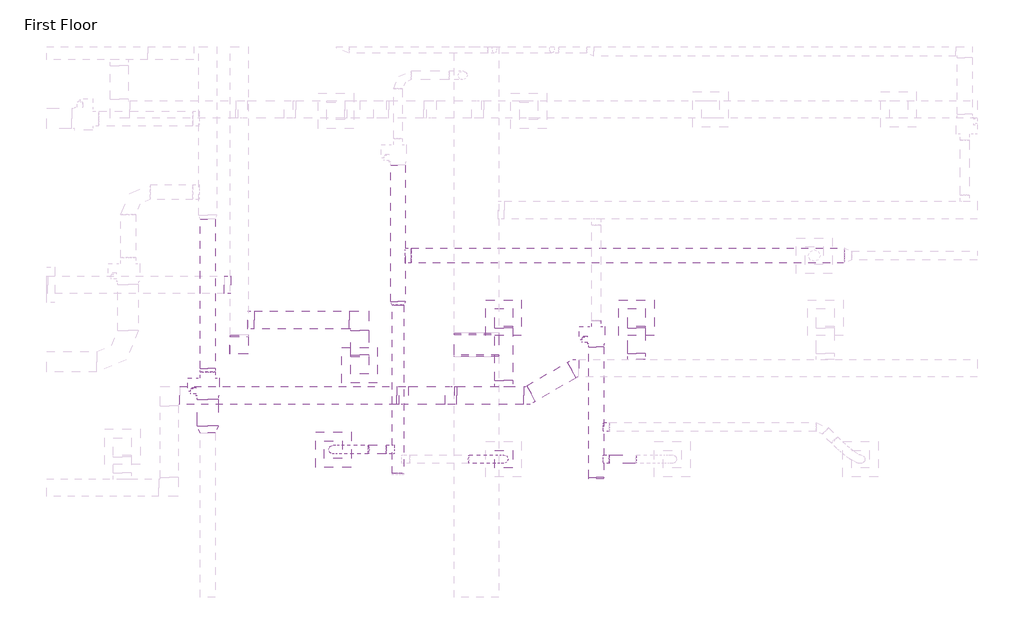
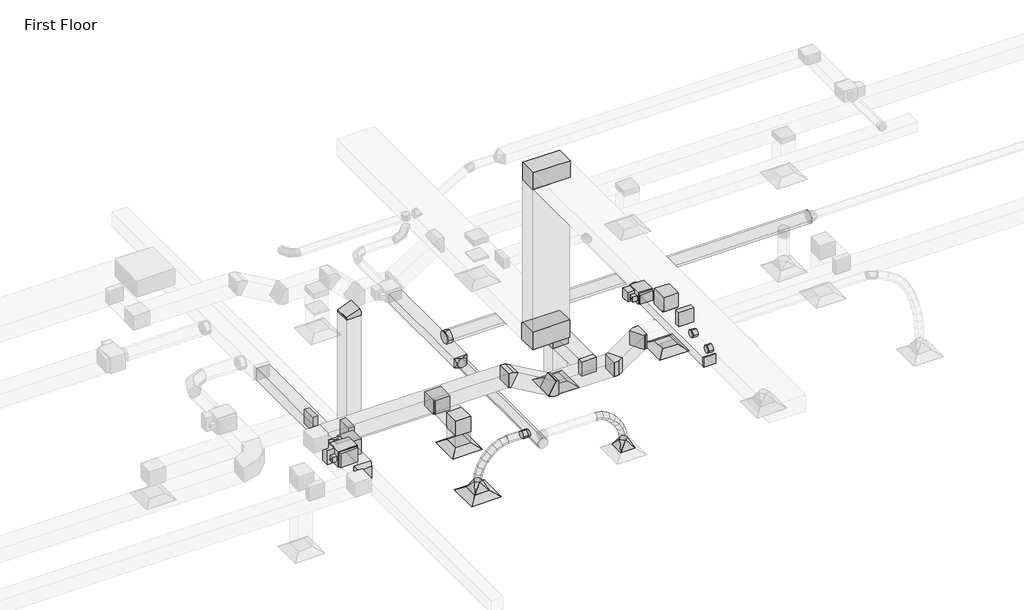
# One storey, part 37 of 61: 26 duct fittings, 23 duct segments, 4 air terminals, 2 proxies.
"""IFC4 building model written with IfcOpenShell, lengths in millimetres."""

from ifc_helpers import new_model, si_unit, point, frame, frame_2d, origin, place, context, project, spatial, polyline, circle_curve, ellipse_curve, trimmed, segment, composite_curve, outline, extrude, transform, mapped, element, save
from ifc_brep_helpers import plane_surface, cylinder_surface, advanced_brep
from components import m_exhaust_grill_er_600_x_600_face_300_x_300_connection_ff221211, m_vav_unit_single_duct_150_mm_ffdab17b, m_vav_unit_single_duct_250_mm_b14a1009, m_rectangular_elbow_mitered_standard_8eee5933, m_rectangular_elbow_mitered_standard_fe2310d5, m_rectangular_elbow_mitered_standard_8b3b5101, m_rectangular_elbow_mitered_standard_01168410, m_rectangular_endcap_standard_ecd4e432, m_rectangular_takeoff_standard_c00386d1, m_rectangular_takeoff_standard_b44bfa45, m_rectangular_transition_angle_45_degree_a06503df, m_rectangular_to_round_transition_angle_45_degree_8f201c83, m_rectangular_to_round_transition_angle_45_degree_9bcfcd89, m_rectangular_to_round_transition_angle_45_degree_26f3b062, m_round_takeoff_standard_2721f8a4, m_round_takeoff_standard_ce92a222, m_round_takeoff_standard_8779dfef

model = new_model("IFC4")

# Units and contexts
model_context = context("Model", 3, world=origin())
ifc_project = project(units=[si_unit("LENGTHUNIT", "METRE", prefix="MILLI")], contexts=[model_context])

# Site, building, storey
site = spatial("IfcSite", under=ifc_project)
building = spatial("IfcBuilding", under=site)
storey = spatial("IfcBuildingStorey", under=building, Name="First Floor", Elevation=0.0)

# Air terminals
placement = place(None, origin())
m_exhaust_grill_er_600_x_600_face_300_x_300_connection_shape = m_exhaust_grill_er_600_x_600_face_300_x_300_connection_ff221211(model_context)
element("IfcAirTerminal", 1, ObjectType="M_Exhaust Grill : ER-600 x 600 Face 300 x 300 Connection", at=placement, inside=storey, context=model_context, shape_type="MappedRepresentation", body=[
    mapped(m_exhaust_grill_er_600_x_600_face_300_x_300_connection_shape, transform((-36957.5376992, 37554.9720359, 2680.0), x_axis=(1.0, 0.0, 0.0), y_axis=(0.0, 1.0, 0.0), z_axis=(0.0, 0.0, 1.0))),
])
element("IfcAirTerminal", 2, ObjectType="M_Return Register : RR-600 x 600 Face 300 x 300 Connection", at=placement, inside=storey, context=model_context, shape_type="MappedRepresentation", body=[
    mapped(m_exhaust_grill_er_600_x_600_face_300_x_300_connection_shape, transform((-34530.7549535, 38358.5208691, 2680.0), x_axis=(1.0, 0.0, 0.0), y_axis=(0.0, 1.0, 0.0), z_axis=(0.0, 0.0, 1.0))),
])
element("IfcAirTerminal", 3, ObjectType="M_Return Register : RR-600 x 600 Face 300 x 300 Connection", at=placement, inside=storey, context=model_context, shape_type="MappedRepresentation", body=[
    mapped(m_exhaust_grill_er_600_x_600_face_300_x_300_connection_shape, transform((-32292.2488656, 38358.5208691, 2680.0), x_axis=(1.0, 0.0, 0.0), y_axis=(0.0, 1.0, 0.0), z_axis=(0.0, 0.0, 1.0))),
])
element("IfcAirTerminal", 4, ObjectType="M_Supply Diffuser : SD-600 x 600 Face 300 x 300 Connection", at=placement, inside=storey, context=model_context, shape_type="MappedRepresentation", body=[
    mapped(m_exhaust_grill_er_600_x_600_face_300_x_300_connection_shape, transform((-37399.8655235, 36131.8095026, 2680.0), x_axis=(1.0, 0.0, 0.0), y_axis=(0.0, 1.0, 0.0), z_axis=(0.0, 0.0, 1.0))),
])

# Proxies
m_vav_unit_single_duct_150_mm_shape = m_vav_unit_single_duct_150_mm_ffdab17b(model_context)
element("IfcBuildingElementProxy", 5, Name="M_VAV Unit - Single Duct : 150 mm", ObjectType="M_VAV Unit - Single Duct : 150 mm", at=placement, inside=storey, context=model_context, shape_type="MappedRepresentation", body=[
    mapped(m_vav_unit_single_duct_150_mm_shape, transform((-32971.6317748, 38206.5503026, 4160.05), x_axis=(0.0, -1.0000000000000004, 0.0), y_axis=(1.0000000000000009, 0.0, 0.0), z_axis=(0.0, 0.0, 1.0000000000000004))),
])
m_vav_unit_single_duct_250_mm_shape = m_vav_unit_single_duct_250_mm_b14a1009(model_context)
element("IfcBuildingElementProxy", 6, Name="M_VAV Unit - Single Duct : 250 mm", ObjectType="M_VAV Unit - Single Duct : 250 mm", at=placement, inside=storey, context=model_context, shape_type="MappedRepresentation", body=[
    mapped(m_vav_unit_single_duct_250_mm_shape, transform((-39518.4687402, 37337.2097424, 3500.0), x_axis=(0.0, -1.0, 0.0), y_axis=(0.9999999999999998, 0.0, 0.0), z_axis=(0.0, 0.0, 0.9999999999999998))),
])

# Duct fittings
m_rectangular_elbow_mitered_standard_shape = m_rectangular_elbow_mitered_standard_8eee5933(model_context)
element("IfcDuctFitting", 7, ObjectType="M_Rectangular Elbow - Mitered : Standard", at=placement, inside=storey, context=model_context, shape_type="MappedRepresentation", body=[
    mapped(m_rectangular_elbow_mitered_standard_shape, transform((-32292.2488656, 38358.5208691, 3750.0), x_axis=(0.0, 0.0, 1.0), y_axis=(0.0, -1.0, 0.0), z_axis=(1.0, 0.0, 0.0))),
])
element("IfcDuctFitting", 8, ObjectType="M_Rectangular Elbow - Mitered : Standard", at=placement, inside=storey, context=model_context, shape_type="MappedRepresentation", body=[
    mapped(m_rectangular_elbow_mitered_standard_shape, transform((-34530.7549535, 38358.5208691, 3750.0), x_axis=(0.0, 0.0, 1.0), y_axis=(0.0, -1.0, 0.0), z_axis=(1.0, 0.0, 0.0))),
])
element("IfcDuctFitting", 9, ObjectType="M_Rectangular Elbow - Mitered : Standard", at=placement, inside=storey, context=model_context, shape_type="MappedRepresentation", body=[
    mapped(m_rectangular_elbow_mitered_standard_shape, transform((-36957.5376992, 37554.9720359, 3200.0), x_axis=(0.0, 0.0, 1.0), y_axis=(0.0, 1.0, 0.0), z_axis=(-1.0, 0.0, 0.0))),
])
element("IfcDuctFitting", 10, ObjectType="M_Rectangular Elbow - Mitered : Standard", at=placement, inside=storey, context=model_context, shape_type="MappedRepresentation", body=[
    mapped(m_rectangular_elbow_mitered_standard_shape, transform((-36957.5376992, 38314.9720359, 3200.0), x_axis=(0.0, 1.0, 0.0), y_axis=(-1.0, 0.0, 0.0), z_axis=(0.0, 0.0, 1.0))),
])
element("IfcDuctFitting", 11, ObjectType="M_Rectangular Elbow - Mitered : Standard", at=placement, inside=storey, context=model_context, shape_type="MappedRepresentation", body=[
    mapped(m_rectangular_elbow_mitered_standard_shape, transform((-38985.9613903, 37891.6210678, 3200.0), x_axis=(0.0, -1.0, 0.0), y_axis=(0.0, 0.0, 1.0), z_axis=(-1.0, 0.0, 0.0))),
])
m_rectangular_elbow_mitered_standard_2_shape = m_rectangular_elbow_mitered_standard_fe2310d5(model_context)
element("IfcDuctFitting", 12, ObjectType="M_Rectangular Elbow - Mitered : Standard", at=placement, inside=storey, context=model_context, shape_type="MappedRepresentation", body=[
    mapped(m_rectangular_elbow_mitered_standard_2_shape, transform((-34991.1904063, 37899.674982, 4259.5), x_axis=(0.0, -1.0, 0.0), y_axis=(0.0, 0.0, 1.0), z_axis=(-1.0, 0.0, 0.0))),
])
element("IfcDuctFitting", 13, ObjectType="M_Rectangular Elbow - Mitered : Standard", at=placement, inside=storey, context=model_context, shape_type="MappedRepresentation", body=[
    mapped(m_rectangular_elbow_mitered_standard_2_shape, transform((-34991.1904063, 37899.674982, 7719.5), x_axis=(0.0, 0.0, 1.0), y_axis=(0.0, -1.0, 0.0), z_axis=(1.0, 0.0, 0.0))),
])
m_rectangular_elbow_mitered_standard_3_shape = m_rectangular_elbow_mitered_standard_8b3b5101(model_context)
element("IfcDuctFitting", 14, ObjectType="M_Rectangular Elbow - Mitered : Standard", at=placement, inside=storey, context=model_context, shape_type="MappedRepresentation", body=[
    mapped(m_rectangular_elbow_mitered_standard_3_shape, transform((-33328.0356534, 37503.8775197, 3750.0), x_axis=(-1.0, 0.0, 0.0), y_axis=(0.0, -1.0, 0.0), z_axis=(0.0, 0.0, 1.0))),
])
element("IfcDuctFitting", 15, ObjectType="M_Rectangular Elbow - Mitered : Standard", at=placement, inside=storey, context=model_context, shape_type="MappedRepresentation", body=[
    mapped(m_rectangular_elbow_mitered_standard_3_shape, transform((-34124.7790249, 37043.8775197, 3750.0), x_axis=(1.0, 0.0, 0.0), y_axis=(0.0, 1.0, 0.0), z_axis=(0.0, 0.0, 1.0))),
])
element("IfcDuctFitting", 16, ObjectType="M_Rectangular Elbow - Mitered : Standard", at=placement, inside=storey, context=model_context, shape_type="MappedRepresentation", body=[
    mapped(m_rectangular_elbow_mitered_standard_3_shape, transform((-35384.7790249, 37043.8775197, 3750.0), x_axis=(-1.0, 0.0, 0.0), y_axis=(0.0, 0.0, 1.0), z_axis=(0.0, 1.0, 0.0))),
])
element("IfcDuctFitting", 17, ObjectType="M_Rectangular Elbow - Mitered : Standard", at=placement, inside=storey, context=model_context, shape_type="MappedRepresentation", body=[
    mapped(m_rectangular_elbow_mitered_standard_3_shape, transform((-36267.2589113, 37043.8775197, 4259.5), x_axis=(-0.8660254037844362, 0.0, 0.5000000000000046), y_axis=(-0.5000000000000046, 0.0, -0.8660254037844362), z_axis=(0.0, -1.0, 0.0))),
])
m_rectangular_elbow_mitered_standard_4_shape = m_rectangular_elbow_mitered_standard_01168410(model_context)
element("IfcDuctFitting", 18, ObjectType="M_Rectangular Elbow - Mitered : Standard", at=placement, inside=storey, context=model_context, shape_type="MappedRepresentation", body=[
    mapped(m_rectangular_elbow_mitered_standard_4_shape, transform((-38985.9613903, 37891.6210678, 6080.0), x_axis=(0.0, 0.0, 1.0), y_axis=(-1.0, 0.0, 0.0), z_axis=(0.0, -1.0, 0.0))),
])
m_rectangular_endcap_standard_shape = m_rectangular_endcap_standard_ecd4e432(model_context)
element("IfcDuctFitting", 19, ObjectType="M_Rectangular Endcap : Standard", at=placement, inside=storey, context=model_context, shape_type="MappedRepresentation", body=[
    mapped(m_rectangular_endcap_standard_shape, transform((-32971.6317748, 35663.7503026, 4279.1), x_axis=(0.0, -1.0, 0.0), y_axis=(1.0, 0.0, 0.0), z_axis=(0.0, 0.0, 1.0))),
])
m_rectangular_takeoff_standard_shape = m_rectangular_takeoff_standard_c00386d1(model_context)
element("IfcDuctFitting", 20, ObjectType="M_Rectangular Takeoff : Standard", at=placement, inside=storey, context=model_context, shape_type="MappedRepresentation", body=[
    mapped(m_rectangular_takeoff_standard_shape, transform((-39135.9613903, 38909.7346513, 3200.0), x_axis=(-1.0, 0.0, 0.0), y_axis=(0.0, 1.0, 0.0), z_axis=(0.0, 0.0, -1.0))),
])
m_rectangular_takeoff_standard_2_shape = m_rectangular_takeoff_standard_b44bfa45(model_context)
element("IfcDuctFitting", 21, ObjectType="M_Rectangular Takeoff : Standard", at=placement, inside=storey, context=model_context, shape_type="MappedRepresentation", body=[
    mapped(m_rectangular_takeoff_standard_2_shape, transform((-32292.2488656, 37653.8775197, 3750.0), x_axis=(0.0, 1.0, 0.0), y_axis=(1.0, 0.0, 0.0), z_axis=(0.0, 0.0, -1.0))),
])
element("IfcDuctFitting", 22, ObjectType="M_Rectangular Takeoff : Standard", at=placement, inside=storey, context=model_context, shape_type="MappedRepresentation", body=[
    mapped(m_rectangular_takeoff_standard_2_shape, transform((-34530.7549535, 37193.8775197, 3750.0), x_axis=(0.0, 1.0, 0.0), y_axis=(1.0, 0.0, 0.0), z_axis=(0.0, 0.0, -1.0))),
])
element("IfcDuctFitting", 23, ObjectType="M_Rectangular Takeoff : Standard", at=placement, inside=storey, context=model_context, shape_type="MappedRepresentation", body=[
    mapped(m_rectangular_takeoff_standard_2_shape, transform((-38835.9613903, 38314.9720359, 3200.0), x_axis=(1.0, 0.0, 0.0), y_axis=(0.0, -1.0, 0.0), z_axis=(0.0, 0.0, -1.0))),
])
m_rectangular_transition_angle_45_degree_shape = m_rectangular_transition_angle_45_degree_a06503df(model_context)
element("IfcDuctFitting", 24, ObjectType="M_Rectangular Transition - Angle : 45 Degree", at=placement, inside=storey, context=model_context, shape_type="MappedRepresentation", body=[
    mapped(m_rectangular_transition_angle_45_degree_shape, transform((-39518.4687402, 36530.4992904, 3669.05), x_axis=(0.0, -1.0, 0.0), y_axis=(1.0, 0.0, 0.0), z_axis=(0.0, 0.0, 1.0))),
])
m_rectangular_to_round_transition_angle_45_degree_shape = m_rectangular_to_round_transition_angle_45_degree_8f201c83(model_context)
element("IfcDuctFitting", 25, ObjectType="M_Rectangular to Round Transition - Angle : 45 Degree", at=placement, inside=storey, context=model_context, shape_type="MappedRepresentation", body=[
    mapped(m_rectangular_to_round_transition_angle_45_degree_shape, transform((-37399.8655235, 36131.8095026, 2781.6), x_axis=(0.0, 0.0, 1.0), y_axis=(1.0, 0.0, 0.0), z_axis=(0.0, 1.0, 0.0))),
])
element("IfcDuctFitting", 26, ObjectType="M_Rectangular to Round Transition - Angle : 45 Degree", at=placement, inside=storey, context=model_context, shape_type="MappedRepresentation", body=[
    mapped(m_rectangular_to_round_transition_angle_45_degree_shape, transform((-34530.7549535, 35969.7483346, 2781.6), x_axis=(0.0, 0.0, 1.0), y_axis=(1.0, 0.0, 0.0), z_axis=(0.0, 1.0, 0.0))),
])
m_rectangular_to_round_transition_angle_45_degree_2_shape = m_rectangular_to_round_transition_angle_45_degree_9bcfcd89(model_context)
element("IfcDuctFitting", 27, ObjectType="M_Rectangular to Round Transition - Angle : 45 Degree", at=placement, inside=storey, context=model_context, shape_type="MappedRepresentation", body=[
    mapped(m_rectangular_to_round_transition_angle_45_degree_2_shape, transform((-36311.3408383, 38629.6324746, 3619.0285156), x_axis=(0.0, -1.0, 0.0), y_axis=(1.0, 0.0, 0.0), z_axis=(0.0, 0.0, 1.0))),
])
m_rectangular_to_round_transition_angle_45_degree_3_shape = m_rectangular_to_round_transition_angle_45_degree_26f3b062(model_context)
element("IfcDuctFitting", 28, ObjectType="M_Rectangular to Round Transition - Angle : 45 Degree", at=placement, inside=storey, context=model_context, shape_type="MappedRepresentation", body=[
    mapped(m_rectangular_to_round_transition_angle_45_degree_3_shape, transform((-39517.6187402, 37501.3097424, 3659.525), x_axis=(0.0, -1.0, 0.0), y_axis=(1.0, 0.0, 0.0), z_axis=(0.0, 0.0, 1.0))),
])
m_round_takeoff_standard_shape = m_round_takeoff_standard_2721f8a4(model_context)
element("IfcDuctFitting", 29, ObjectType="M_Round Takeoff : Standard", at=placement, inside=storey, context=model_context, shape_type="MappedRepresentation", body=[
    mapped(m_round_takeoff_standard_shape, transform((-32846.6317748, 35969.7483346, 4279.1), x_axis=(1.0, 0.0, 0.0), y_axis=(0.0, -1.0, 0.0), z_axis=(0.0, 0.0, -1.0))),
])
element("IfcDuctFitting", 30, ObjectType="M_Round Takeoff : Standard", at=placement, inside=storey, context=model_context, shape_type="MappedRepresentation", body=[
    mapped(m_round_takeoff_standard_shape, transform((-32846.6317748, 36511.5685433, 4279.1), x_axis=(1.0, 0.0, 0.0), y_axis=(0.0, -1.0, 0.0), z_axis=(0.0, 0.0, -1.0))),
])
m_round_takeoff_standard_2_shape = m_round_takeoff_standard_ce92a222(model_context)
element("IfcDuctFitting", 31, ObjectType="M_Round Takeoff : Standard", at=placement, inside=storey, context=model_context, shape_type="MappedRepresentation", body=[
    mapped(m_round_takeoff_standard_2_shape, transform((-36186.3408383, 39401.9183838, 3619.1), x_axis=(1.0, 0.0, 0.0), y_axis=(0.0, -1.0, 0.0), z_axis=(0.0, 0.0, -1.0))),
])
m_round_takeoff_standard_3_shape = m_round_takeoff_standard_8779dfef(model_context)
element("IfcDuctFitting", 32, ObjectType="M_Round Takeoff : Standard", at=placement, inside=storey, context=model_context, shape_type="MappedRepresentation", body=[
    mapped(m_round_takeoff_standard_3_shape, transform((-36411.3408383, 36131.8095026, 3619.1), x_axis=(-1.0, 0.0, 0.0), y_axis=(0.0, 1.0, 0.0), z_axis=(0.0, 0.0, -1.0))),
])

# Duct segments
element("IfcDuctSegment", 33, ObjectType="Flex - Round", at=placement, inside=storey, context=model_context, shape_type="AdvancedBrep", body=[
    advanced_brep(
    [(-36811.3408383, 36056.8095026, 3619.1), (-36798.9621949, 36131.8095026, 3545.1285921), (-36811.3408383, 36206.8095026, 3619.1), (-36823.7194817, 36131.8095026, 3693.0714079), (-36936.4736533, 36056.8095026, 3598.1598214), (-36913.5646424, 36131.8095026, 3525.9506034), (-36936.4736533, 36206.8095026, 3598.1598214), (-36959.3826643, 36131.8095026, 3670.3690395), (-37399.8655235, 36056.8095026, 2962.6660172), (-37474.2081828, 36131.8095026, 2972.5740451), (-37399.8655235, 36206.8095026, 2962.6660172), (-37325.5228643, 36131.8095026, 2952.7579893), (-37056.5334004, 36056.8095026, 3540.3683302), (-37016.4750844, 36131.8095026, 3476.4140346), (-37056.5334004, 36206.8095026, 3540.3683302), (-37096.5917163, 36131.8095026, 3604.3226257), (-37166.3523482, 36056.8095026, 3453.2690929), (-37114.2710375, 36131.8095026, 3398.8504347), (-37166.3523482, 36206.8095026, 3453.2690929), (-37218.4336588, 36131.8095026, 3507.687751), (-37260.7627656, 36056.8095026, 3344.4056762), (-37199.8139129, 36131.8095026, 3300.2120648), (-37260.7627656, 36206.8095026, 3344.4056762), (-37321.7116183, 36131.8095026, 3388.5992877), (-37334.5969214, 36056.8095026, 3221.321647), (-37266.6942769, 36131.8095026, 3188.7202411), (-37334.5969214, 36206.8095026, 3221.321647), (-37402.4995659, 36131.8095026, 3253.9230528), (-37382.6870845, 36056.8095026, 3091.5605717), (-37309.4508522, 36131.8095026, 3073.350718), (-37382.6870845, 36206.8095026, 3091.5605717), (-37455.9233168, 36131.8095026, 3109.7704255)],
    [
        (0, 1, circle_curve(frame((-36811.3408383, 36131.8095026, 3619.1), z_axis=(0.9862854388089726, 0.0, 0.16504857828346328), x_axis=(0.0, -1.0, 0.0)), 75.0)),
        (1, 2, circle_curve(frame((-36811.3408383, 36131.8095026, 3619.1), z_axis=(0.9862854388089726, 0.0, 0.16504857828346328), x_axis=(0.0, -1.0, 0.0)), 75.0)),
        (2, 3, circle_curve(frame((-36811.3408383, 36131.8095026, 3619.1), z_axis=(0.9862854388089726, 0.0, 0.16504857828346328), x_axis=(0.0, -1.0, 0.0)), 75.0)),
        (3, 0, circle_curve(frame((-36811.3408383, 36131.8095026, 3619.1), z_axis=(0.9862854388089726, 0.0, 0.16504857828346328), x_axis=(0.0, -1.0, 0.0)), 75.0)),
        (0, 4),
        (4, 5, ellipse_curve(frame((-36936.4736533, 36131.8095026, 3598.1598214), z_axis=(0.9531796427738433, 0.0, 0.3024046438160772), x_axis=(0.3024046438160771, 0.0, -0.9531796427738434)), 75.756148, 75.0)),
        (5, 1),
        (5, 6, ellipse_curve(frame((-36936.4736533, 36131.8095026, 3598.1598214), z_axis=(0.9531796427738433, 0.0, 0.3024046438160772), x_axis=(0.3024046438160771, 0.0, -0.9531796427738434)), 75.756148, 75.0)),
        (6, 2),
        (6, 7, ellipse_curve(frame((-36936.4736533, 36131.8095026, 3598.1598214), z_axis=(0.9531796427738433, 0.0, 0.3024046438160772), x_axis=(0.3024046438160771, 0.0, -0.9531796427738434)), 75.756148, 75.0)),
        (7, 3),
        (7, 4, ellipse_curve(frame((-36936.4736533, 36131.8095026, 3598.1598214), z_axis=(0.9531796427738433, 0.0, 0.3024046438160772), x_axis=(0.3024046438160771, 0.0, -0.9531796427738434)), 75.756148, 75.0)),
        (8, 9, circle_curve(frame((-37399.8655235, 36131.8095026, 2962.6660172), z_axis=(-0.1321070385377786, 0.0, -0.9912354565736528), x_axis=(0.0, -1.0, 0.0)), 75.0)),
        (9, 10, circle_curve(frame((-37399.8655235, 36131.8095026, 2962.6660172), z_axis=(-0.1321070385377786, 0.0, -0.9912354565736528), x_axis=(0.0, -1.0, 0.0)), 75.0)),
        (10, 11, circle_curve(frame((-37399.8655235, 36131.8095026, 2962.6660172), z_axis=(-0.1321070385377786, 0.0, -0.9912354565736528), x_axis=(0.0, -1.0, 0.0)), 75.0)),
        (11, 8, circle_curve(frame((-37399.8655235, 36131.8095026, 2962.6660172), z_axis=(-0.1321070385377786, 0.0, -0.9912354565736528), x_axis=(0.0, -1.0, 0.0)), 75.0)),
        (4, 12),
        (12, 13, ellipse_curve(frame((-37056.5334004, 36131.8095026, 3540.3683302), z_axis=(0.8474804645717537, 0.0, 0.5308265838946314), x_axis=(0.5308265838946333, 0.0, -0.8474804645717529)), 75.4640351, 75.0)),
        (13, 5),
        (13, 14, ellipse_curve(frame((-37056.5334004, 36131.8095026, 3540.3683302), z_axis=(0.8474804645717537, 0.0, 0.5308265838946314), x_axis=(0.5308265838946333, 0.0, -0.8474804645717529)), 75.4640351, 75.0)),
        (14, 6),
        (14, 15, ellipse_curve(frame((-37056.5334004, 36131.8095026, 3540.3683302), z_axis=(0.8474804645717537, 0.0, 0.5308265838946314), x_axis=(0.5308265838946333, 0.0, -0.8474804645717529)), 75.4640351, 75.0)),
        (15, 7),
        (15, 12, ellipse_curve(frame((-37056.5334004, 36131.8095026, 3540.3683302), z_axis=(0.8474804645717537, 0.0, 0.5308265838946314), x_axis=(0.5308265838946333, 0.0, -0.8474804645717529)), 75.4640351, 75.0)),
        (12, 16),
        (16, 17, ellipse_curve(frame((-37166.3523482, 36131.8095026, 3453.2690929), z_axis=(0.7224516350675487, 0.0, 0.6914214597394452), x_axis=(0.6914214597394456, 0.0, -0.7224516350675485)), 75.3249844, 75.0)),
        (17, 13),
        (17, 18, ellipse_curve(frame((-37166.3523482, 36131.8095026, 3453.2690929), z_axis=(0.7224516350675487, 0.0, 0.6914214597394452), x_axis=(0.6914214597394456, 0.0, -0.7224516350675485)), 75.3249844, 75.0)),
        (18, 14),
        (18, 19, ellipse_curve(frame((-37166.3523482, 36131.8095026, 3453.2690929), z_axis=(0.7224516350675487, 0.0, 0.6914214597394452), x_axis=(0.6914214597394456, 0.0, -0.7224516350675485)), 75.3249844, 75.0)),
        (19, 15),
        (19, 16, ellipse_curve(frame((-37166.3523482, 36131.8095026, 3453.2690929), z_axis=(0.7224516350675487, 0.0, 0.6914214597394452), x_axis=(0.6914214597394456, 0.0, -0.7224516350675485)), 75.3249844, 75.0)),
        (16, 20),
        (20, 21, ellipse_curve(frame((-37260.7627656, 36131.8095026, 3344.4056762), z_axis=(0.5870171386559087, 0.0, 0.8095745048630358), x_axis=(0.8095745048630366, 0.0, -0.5870171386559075)), 75.2850446, 75.0)),
        (21, 17),
        (21, 22, ellipse_curve(frame((-37260.7627656, 36131.8095026, 3344.4056762), z_axis=(0.5870171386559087, 0.0, 0.8095745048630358), x_axis=(0.8095745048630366, 0.0, -0.5870171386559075)), 75.2850446, 75.0)),
        (22, 18),
        (22, 23, ellipse_curve(frame((-37260.7627656, 36131.8095026, 3344.4056762), z_axis=(0.5870171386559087, 0.0, 0.8095745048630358), x_axis=(0.8095745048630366, 0.0, -0.5870171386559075)), 75.2850446, 75.0)),
        (23, 19),
        (23, 20, ellipse_curve(frame((-37260.7627656, 36131.8095026, 3344.4056762), z_axis=(0.5870171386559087, 0.0, 0.8095745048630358), x_axis=(0.8095745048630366, 0.0, -0.5870171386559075)), 75.2850446, 75.0)),
        (20, 24),
        (24, 25, ellipse_curve(frame((-37334.5969214, 36131.8095026, 3221.321647), z_axis=(0.4328188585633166, 0.0, 0.9014809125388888), x_axis=(0.9014809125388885, 0.0, -0.432818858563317)), 75.3234412, 75.0)),
        (25, 21),
        (25, 26, ellipse_curve(frame((-37334.5969214, 36131.8095026, 3221.321647), z_axis=(0.4328188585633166, 0.0, 0.9014809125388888), x_axis=(0.9014809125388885, 0.0, -0.432818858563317)), 75.3234412, 75.0)),
        (26, 22),
        (26, 27, ellipse_curve(frame((-37334.5969214, 36131.8095026, 3221.321647), z_axis=(0.4328188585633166, 0.0, 0.9014809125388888), x_axis=(0.9014809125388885, 0.0, -0.432818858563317)), 75.3234412, 75.0)),
        (27, 23),
        (27, 24, ellipse_curve(frame((-37334.5969214, 36131.8095026, 3221.321647), z_axis=(0.4328188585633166, 0.0, 0.9014809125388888), x_axis=(0.9014809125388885, 0.0, -0.432818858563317)), 75.3234412, 75.0)),
        (24, 28),
        (28, 29, ellipse_curve(frame((-37382.6870845, 36131.8095026, 3091.5605717), z_axis=(0.24129820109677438, 0.0, 0.9704510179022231), x_axis=(0.9704510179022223, 0.0, -0.2412982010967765)), 75.4661811, 75.0)),
        (29, 25),
        (29, 30, ellipse_curve(frame((-37382.6870845, 36131.8095026, 3091.5605717), z_axis=(0.24129820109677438, 0.0, 0.9704510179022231), x_axis=(0.9704510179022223, 0.0, -0.2412982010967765)), 75.4661811, 75.0)),
        (30, 26),
        (30, 31, ellipse_curve(frame((-37382.6870845, 36131.8095026, 3091.5605717), z_axis=(0.24129820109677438, 0.0, 0.9704510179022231), x_axis=(0.9704510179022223, 0.0, -0.2412982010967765)), 75.4661811, 75.0)),
        (31, 27),
        (31, 28, ellipse_curve(frame((-37382.6870845, 36131.8095026, 3091.5605717), z_axis=(0.24129820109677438, 0.0, 0.9704510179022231), x_axis=(0.9704510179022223, 0.0, -0.2412982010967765)), 75.4661811, 75.0)),
        (28, 8),
        (11, 29),
        (10, 30),
        (9, 31),
    ],
    [
        plane_surface(frame((-36811.3408383, 36206.8095026, 3619.1), z_axis=(0.986285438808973, 0.0, 0.16504857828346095), x_axis=(0.16504857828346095, 0.0, -0.986285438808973))),
        cylinder_surface(frame((-36811.3408383, 36131.8095026, 3619.1), z_axis=(0.9862854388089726, 0.0, 0.16504857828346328), x_axis=(0.0, -1.0, 0.0)), 75.0),
        plane_surface(frame((-37399.8655235, 36206.8095026, 2962.6660172), z_axis=(-0.13210703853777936, 0.0, -0.9912354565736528), x_axis=(0.9912354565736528, 0.0, -0.13210703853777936))),
        cylinder_surface(frame((-36936.4736533, 36131.8095026, 3598.1598214), z_axis=(0.9010458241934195, 0.0, 0.43372390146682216), x_axis=(0.0, -1.0, 0.0)), 75.0),
        cylinder_surface(frame((-37056.5334004, 36131.8095026, 3540.3683302), z_axis=(0.7834926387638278, 0.0, 0.6214010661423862), x_axis=(0.0, -1.0, 0.0)), 75.0),
        cylinder_surface(frame((-37166.3523482, 36131.8095026, 3453.2690929), z_axis=(0.6551766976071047, 0.0, 0.7554756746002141), x_axis=(0.0, -1.0, 0.0)), 75.0),
        cylinder_surface(frame((-37260.7627656, 36131.8095026, 3344.4056762), z_axis=(0.5144124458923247, 0.0, 0.857542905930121), x_axis=(0.0, -1.0, 0.0)), 75.0),
        cylinder_surface(frame((-37334.5969214, 36131.8095026, 3221.321647), z_axis=(0.34750819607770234, 0.0, 0.937676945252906), x_axis=(0.0, -1.0, 0.0)), 75.0),
        cylinder_surface(frame((-37382.6870845, 36131.8095026, 3091.5605717), z_axis=(0.1321070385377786, 0.0, 0.9912354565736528), x_axis=(0.0, -1.0, 0.0)), 75.0),
    ],
    [
        (0, [[1, 2, 3, 4]]),
        (1, [[-1, 5, 6, 7]]),
        (1, [[-2, -7, 8, 9]]),
        (1, [[-3, -9, 10, 11]]),
        (1, [[-4, -11, 12, -5]]),
        (2, [[13, 14, 15, 16]]),
        (3, [[-6, 17, 18, 19]]),
        (3, [[-8, -19, 20, 21]]),
        (3, [[-10, -21, 22, 23]]),
        (3, [[-12, -23, 24, -17]]),
        (4, [[-18, 25, 26, 27]]),
        (4, [[-20, -27, 28, 29]]),
        (4, [[-22, -29, 30, 31]]),
        (4, [[-24, -31, 32, -25]]),
        (5, [[-26, 33, 34, 35]]),
        (5, [[-28, -35, 36, 37]]),
        (5, [[-30, -37, 38, 39]]),
        (5, [[-32, -39, 40, -33]]),
        (6, [[-34, 41, 42, 43]]),
        (6, [[-36, -43, 44, 45]]),
        (6, [[-38, -45, 46, 47]]),
        (6, [[-40, -47, 48, -41]]),
        (7, [[-42, 49, 50, 51]]),
        (7, [[-44, -51, 52, 53]]),
        (7, [[-46, -53, 54, 55]]),
        (7, [[-48, -55, 56, -49]]),
        (8, [[-50, 57, -16, 58]]),
        (8, [[-52, -58, -15, 59]]),
        (8, [[-54, -59, -14, 60]]),
        (8, [[-56, -60, -13, -57]]),
    ],
),
])
element("IfcDuctSegment", 34, ObjectType="Flex - Round", at=placement, inside=storey, context=model_context, shape_type="AdvancedBrep", body=[
    advanced_brep(
    [(-35111.3408383, 36044.7483346, 3619.1), (-35123.8693436, 35969.7483346, 3545.1538266), (-35111.3408383, 35894.7483346, 3619.1), (-35098.812333, 35969.7483346, 3693.0461734), (-34987.2019048, 36044.7483346, 3598.0674676), (-35010.4033498, 35969.7483346, 3525.9295823), (-34987.2019048, 35894.7483346, 3598.0674676), (-34964.0004598, 35969.7483346, 3670.2053529), (-34530.7549535, 36044.7483346, 2962.6660172), (-34456.3917015, 35969.7483346, 2972.4182864), (-34530.7549535, 35894.7483346, 2962.6660172), (-34605.1182055, 35969.7483346, 2952.913748), (-34868.4917644, 36044.7483346, 3540.0604841), (-34909.0043352, 35969.7483346, 3476.3815744), (-34868.4917644, 35894.7483346, 3540.0604841), (-34827.9791936, 35969.7483346, 3603.7393937), (-34760.1927597, 36044.7483346, 3452.71497), (-34812.735048, 35969.7483346, 3398.7382903), (-34760.1927597, 35894.7483346, 3452.71497), (-34707.6504715, 35969.7483346, 3506.6916496), (-34667.2872336, 36044.7483346, 3343.6668457), (-34728.6011724, 35969.7483346, 3299.9859158), (-34667.2872336, 35894.7483346, 3343.6668457), (-34605.9732948, 35969.7483346, 3387.3477756), (-34594.7575287, 36044.7483346, 3220.5520318), (-34662.8739667, 35969.7483346, 3188.4179354), (-34594.7575287, 35894.7483346, 3220.5520318), (-34526.6410907, 35969.7483346, 3252.6861283), (-34547.5859878, 36044.7483346, 3091.0064488), (-34620.8780244, 35969.7483346, 3073.0859211), (-34547.5859878, 35894.7483346, 3091.0064488), (-34474.2939511, 35969.7483346, 3108.9269765)],
    [
        (0, 1, circle_curve(frame((-35111.3408383, 35969.7483346, 3619.1), z_axis=(-0.985948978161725, 0.0, 0.16704673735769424), x_axis=(0.0, 1.0, 0.0)), 75.0)),
        (1, 2, circle_curve(frame((-35111.3408383, 35969.7483346, 3619.1), z_axis=(-0.985948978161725, 0.0, 0.16704673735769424), x_axis=(0.0, 1.0, 0.0)), 75.0)),
        (2, 3, circle_curve(frame((-35111.3408383, 35969.7483346, 3619.1), z_axis=(-0.985948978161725, 0.0, 0.16704673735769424), x_axis=(0.0, 1.0, 0.0)), 75.0)),
        (3, 0, circle_curve(frame((-35111.3408383, 35969.7483346, 3619.1), z_axis=(-0.985948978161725, 0.0, 0.16704673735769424), x_axis=(0.0, 1.0, 0.0)), 75.0)),
        (0, 4),
        (4, 5, ellipse_curve(frame((-34987.2019048, 35969.7483346, 3598.0674676), z_axis=(-0.9519736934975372, 0.0, 0.3061798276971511), x_axis=(-0.3061798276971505, 0.0, -0.9519736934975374)), 75.7771836, 75.0)),
        (5, 1),
        (5, 6, ellipse_curve(frame((-34987.2019048, 35969.7483346, 3598.0674676), z_axis=(-0.9519736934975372, 0.0, 0.3061798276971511), x_axis=(-0.3061798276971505, 0.0, -0.9519736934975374)), 75.7771836, 75.0)),
        (6, 2),
        (6, 7, ellipse_curve(frame((-34987.2019048, 35969.7483346, 3598.0674676), z_axis=(-0.9519736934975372, 0.0, 0.3061798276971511), x_axis=(-0.3061798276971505, 0.0, -0.9519736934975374)), 75.7771836, 75.0)),
        (7, 3),
        (7, 4, ellipse_curve(frame((-34987.2019048, 35969.7483346, 3598.0674676), z_axis=(-0.9519736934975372, 0.0, 0.3061798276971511), x_axis=(-0.3061798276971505, 0.0, -0.9519736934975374)), 75.7771836, 75.0)),
        (8, 9, circle_curve(frame((-34530.7549535, 35969.7483346, 2962.6660172), z_axis=(0.1300302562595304, 0.0, -0.991510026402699), x_axis=(0.0, 1.0, 0.0)), 75.0)),
        (9, 10, circle_curve(frame((-34530.7549535, 35969.7483346, 2962.6660172), z_axis=(0.1300302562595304, 0.0, -0.991510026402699), x_axis=(0.0, 1.0, 0.0)), 75.0)),
        (10, 11, circle_curve(frame((-34530.7549535, 35969.7483346, 2962.6660172), z_axis=(0.1300302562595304, 0.0, -0.991510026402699), x_axis=(0.0, 1.0, 0.0)), 75.0)),
        (11, 8, circle_curve(frame((-34530.7549535, 35969.7483346, 2962.6660172), z_axis=(0.1300302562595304, 0.0, -0.991510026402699), x_axis=(0.0, 1.0, 0.0)), 75.0)),
        (4, 12),
        (12, 13, ellipse_curve(frame((-34868.4917644, 35969.7483346, 3540.0604841), z_axis=(-0.8437237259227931, 0.0, 0.5367776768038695), x_axis=(-0.5367776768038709, 0.0, -0.8437237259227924)), 75.4736505, 75.0)),
        (13, 5),
        (13, 14, ellipse_curve(frame((-34868.4917644, 35969.7483346, 3540.0604841), z_axis=(-0.8437237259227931, 0.0, 0.5367776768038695), x_axis=(-0.5367776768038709, 0.0, -0.8437237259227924)), 75.4736505, 75.0)),
        (14, 6),
        (14, 15, ellipse_curve(frame((-34868.4917644, 35969.7483346, 3540.0604841), z_axis=(-0.8437237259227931, 0.0, 0.5367776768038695), x_axis=(-0.5367776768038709, 0.0, -0.8437237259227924)), 75.4736505, 75.0)),
        (15, 7),
        (15, 12, ellipse_curve(frame((-34868.4917644, 35969.7483346, 3540.0604841), z_axis=(-0.8437237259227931, 0.0, 0.5367776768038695), x_axis=(-0.5367776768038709, 0.0, -0.8437237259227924)), 75.4736505, 75.0)),
        (12, 16),
        (16, 17, ellipse_curve(frame((-34760.1927597, 35969.7483346, 3452.71497), z_axis=(-0.7165637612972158, 0.0, 0.697521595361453), x_axis=(-0.6975215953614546, 0.0, -0.7165637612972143)), 75.3271133, 75.0)),
        (17, 13),
        (17, 18, ellipse_curve(frame((-34760.1927597, 35969.7483346, 3452.71497), z_axis=(-0.7165637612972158, 0.0, 0.697521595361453), x_axis=(-0.6975215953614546, 0.0, -0.7165637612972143)), 75.3271133, 75.0)),
        (18, 14),
        (18, 19, ellipse_curve(frame((-34760.1927597, 35969.7483346, 3452.71497), z_axis=(-0.7165637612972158, 0.0, 0.697521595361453), x_axis=(-0.6975215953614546, 0.0, -0.7165637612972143)), 75.3271133, 75.0)),
        (19, 15),
        (19, 16, ellipse_curve(frame((-34760.1927597, 35969.7483346, 3452.71497), z_axis=(-0.7165637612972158, 0.0, 0.697521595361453), x_axis=(-0.6975215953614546, 0.0, -0.7165637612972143)), 75.3271133, 75.0)),
        (16, 20),
        (20, 21, ellipse_curve(frame((-34667.2872336, 35969.7483346, 3343.6668457), z_axis=(-0.5802285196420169, 0.0, 0.8144537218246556), x_axis=(-0.8144537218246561, 0.0, -0.5802285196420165)), 75.282287, 75.0)),
        (21, 17),
        (21, 22, ellipse_curve(frame((-34667.2872336, 35969.7483346, 3343.6668457), z_axis=(-0.5802285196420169, 0.0, 0.8144537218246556), x_axis=(-0.8144537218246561, 0.0, -0.5802285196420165)), 75.282287, 75.0)),
        (22, 18),
        (22, 23, ellipse_curve(frame((-34667.2872336, 35969.7483346, 3343.6668457), z_axis=(-0.5802285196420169, 0.0, 0.8144537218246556), x_axis=(-0.8144537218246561, 0.0, -0.5802285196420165)), 75.282287, 75.0)),
        (23, 19),
        (23, 20, ellipse_curve(frame((-34667.2872336, 35969.7483346, 3343.6668457), z_axis=(-0.5802285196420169, 0.0, 0.8144537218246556), x_axis=(-0.8144537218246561, 0.0, -0.5802285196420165)), 75.282287, 75.0)),
        (20, 24),
        (24, 25, ellipse_curve(frame((-34594.7575287, 35969.7483346, 3220.5520318), z_axis=(-0.42665887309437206, 0.0, 0.9044126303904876), x_axis=(-0.9044126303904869, 0.0, -0.42665887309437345)), 75.3156643, 75.0)),
        (25, 21),
        (25, 26, ellipse_curve(frame((-34594.7575287, 35969.7483346, 3220.5520318), z_axis=(-0.42665887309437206, 0.0, 0.9044126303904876), x_axis=(-0.9044126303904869, 0.0, -0.42665887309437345)), 75.3156643, 75.0)),
        (26, 22),
        (26, 27, ellipse_curve(frame((-34594.7575287, 35969.7483346, 3220.5520318), z_axis=(-0.42665887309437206, 0.0, 0.9044126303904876), x_axis=(-0.9044126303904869, 0.0, -0.42665887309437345)), 75.3156643, 75.0)),
        (27, 23),
        (27, 24, ellipse_curve(frame((-34594.7575287, 35969.7483346, 3220.5520318), z_axis=(-0.42665887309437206, 0.0, 0.9044126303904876), x_axis=(-0.9044126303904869, 0.0, -0.42665887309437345)), 75.3156643, 75.0)),
        (24, 28),
        (28, 29, ellipse_curve(frame((-34547.5859878, 35969.7483346, 3091.0064488), z_axis=(-0.23751182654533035, 0.0, 0.9713846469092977), x_axis=(-0.9713846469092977, 0.0, -0.23751182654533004)), 75.4510964, 75.0)),
        (29, 25),
        (29, 30, ellipse_curve(frame((-34547.5859878, 35969.7483346, 3091.0064488), z_axis=(-0.23751182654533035, 0.0, 0.9713846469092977), x_axis=(-0.9713846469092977, 0.0, -0.23751182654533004)), 75.4510964, 75.0)),
        (30, 26),
        (30, 31, ellipse_curve(frame((-34547.5859878, 35969.7483346, 3091.0064488), z_axis=(-0.23751182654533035, 0.0, 0.9713846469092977), x_axis=(-0.9713846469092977, 0.0, -0.23751182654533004)), 75.4510964, 75.0)),
        (31, 27),
        (31, 28, ellipse_curve(frame((-34547.5859878, 35969.7483346, 3091.0064488), z_axis=(-0.23751182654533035, 0.0, 0.9713846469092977), x_axis=(-0.9713846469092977, 0.0, -0.23751182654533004)), 75.4510964, 75.0)),
        (28, 8),
        (11, 29),
        (10, 30),
        (9, 31),
    ],
    [
        plane_surface(frame((-35111.3408383, 36044.7483346, 3619.1), z_axis=(-0.985948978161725, 0.0, 0.16704673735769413), x_axis=(0.16704673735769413, 0.0, 0.985948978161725))),
        cylinder_surface(frame((-35111.3408383, 35969.7483346, 3619.1), z_axis=(-0.985948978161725, 0.0, 0.16704673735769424), x_axis=(0.0, 1.0, 0.0)), 75.0),
        plane_surface(frame((-34530.7549535, 36044.7483346, 2962.6660172), z_axis=(0.13003025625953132, 0.0, -0.9915100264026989), x_axis=(0.9915100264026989, 0.0, 0.13003025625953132))),
        cylinder_surface(frame((-34987.2019048, 35969.7483346, 3598.0674676), z_axis=(-0.898471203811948, 0.0, 0.43903245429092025), x_axis=(0.0, 1.0, 0.0)), 75.0),
        cylinder_surface(frame((-34868.4917644, 35969.7483346, 3540.0604841), z_axis=(-0.7783863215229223, 0.0, 0.6277855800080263), x_axis=(0.0, 1.0, 0.0)), 75.0),
        cylinder_surface(frame((-34760.1927597, 35969.7483346, 3452.71497), z_axis=(-0.6485177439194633, 0.0, 0.7611995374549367), x_axis=(0.0, 1.0, 0.0)), 75.0),
        cylinder_surface(frame((-34667.2872336, 35969.7483346, 3343.6668457), z_axis=(-0.5075879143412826, 0.0, 0.8615999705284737), x_axis=(0.0, 1.0, 0.0)), 75.0),
        cylinder_surface(frame((-34594.7575287, 35969.7483346, 3220.5520318), z_axis=(-0.3421533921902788, 0.0, 0.9396441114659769), x_axis=(0.0, 1.0, 0.0)), 75.0),
        cylinder_surface(frame((-34547.5859878, 35969.7483346, 3091.0064488), z_axis=(-0.1300302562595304, 0.0, 0.991510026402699), x_axis=(0.0, 1.0, 0.0)), 75.0),
    ],
    [
        (0, [[1, 2, 3, 4]]),
        (1, [[-1, 5, 6, 7]]),
        (1, [[-2, -7, 8, 9]]),
        (1, [[-3, -9, 10, 11]]),
        (1, [[-4, -11, 12, -5]]),
        (2, [[13, 14, 15, 16]]),
        (3, [[-6, 17, 18, 19]]),
        (3, [[-8, -19, 20, 21]]),
        (3, [[-10, -21, 22, 23]]),
        (3, [[-12, -23, 24, -17]]),
        (4, [[-18, 25, 26, 27]]),
        (4, [[-20, -27, 28, 29]]),
        (4, [[-22, -29, 30, 31]]),
        (4, [[-24, -31, 32, -25]]),
        (5, [[-26, 33, 34, 35]]),
        (5, [[-28, -35, 36, 37]]),
        (5, [[-30, -37, 38, 39]]),
        (5, [[-32, -39, 40, -33]]),
        (6, [[-34, 41, 42, 43]]),
        (6, [[-36, -43, 44, 45]]),
        (6, [[-38, -45, 46, 47]]),
        (6, [[-40, -47, 48, -41]]),
        (7, [[-42, 49, 50, 51]]),
        (7, [[-44, -51, 52, 53]]),
        (7, [[-46, -53, 54, 55]]),
        (7, [[-48, -55, 56, -49]]),
        (8, [[-50, 57, -16, 58]]),
        (8, [[-52, -58, -15, 59]]),
        (8, [[-54, -59, -14, 60]]),
        (8, [[-56, -60, -13, -57]]),
    ],
),
])
element("IfcDuctSegment", 35, ObjectType="Mitered Elbows / Taps", at=placement, inside=storey, context=model_context, shape_type="SweptSolid", body=[
    extrude(outline(polyline([(-36436.3408383, 40929.6324746), (-36186.3408383, 40929.6324746), (-36186.3408383, 38629.6324746), (-36436.3408383, 38629.6324746), (-36436.3408383, 40929.6324746)])), frame((0.0, 0.0, 3519.0285156), z_axis=(0.0, 0.0, 1.0), x_axis=(1.0, 0.0, 0.0)), (0.0, 0.0, 1.0), 200.0),
])
element("IfcDuctSegment", 36, ObjectType="Mitered Elbows / Taps", at=placement, inside=storey, context=model_context, shape_type="SweptSolid", body=[
    extrude(outline(polyline([(-33096.6317748, 37863.7503026), (-32846.6317748, 37863.7503026), (-32846.6317748, 35663.7503026), (-33096.6317748, 35663.7503026), (-33096.6317748, 37863.7503026)])), frame((0.0, 0.0, 4179.1), z_axis=(0.0, 0.0, 1.0), x_axis=(1.0, 0.0, 0.0)), (0.0, 0.0, 1.0), 200.0),
])
element("IfcDuctSegment", 37, ObjectType="Mitered Elbows / Taps", at=placement, inside=storey, context=model_context, shape_type="SweptSolid", body=[
    extrude(outline(polyline([(-33459.4939096, 37601.1851409), (-33309.4939096, 37341.3775197), (-33993.3207687, 36946.5698986), (-34143.3207687, 37206.3775197), (-33459.4939096, 37601.1851409)])), frame((0.0, 0.0, 3600.0), z_axis=(0.0, 0.0, 1.0), x_axis=(1.0, 0.0, 0.0)), (0.0, 0.0, 1.0), 300.0),
])
element("IfcDuctSegment", 38, ObjectType="Mitered Elbows / Taps", at=placement, inside=storey, context=model_context, shape_type="SweptSolid", body=[
    extrude(outline(polyline([(-32442.2488656, 38183.5208691), (-32142.2488656, 38183.5208691), (-32142.2488656, 37753.8775197), (-32442.2488656, 37753.8775197), (-32442.2488656, 38183.5208691)])), frame((0.0, 0.0, 3600.0), z_axis=(0.0, 0.0, 1.0), x_axis=(1.0, 0.0, 0.0)), (0.0, 0.0, 1.0), 300.0),
])
element("IfcDuctSegment", 39, ObjectType="Mitered Elbows / Taps", at=placement, inside=storey, context=model_context, shape_type="SweptSolid", body=[
    extrude(outline(polyline([(-32142.2488656, 38208.5208691), (-32442.2488656, 38208.5208691), (-32442.2488656, 38508.5208691), (-32142.2488656, 38508.5208691), (-32142.2488656, 38208.5208691)])), frame((0.0, 0.0, 2781.6), z_axis=(0.0, 0.0, 1.0), x_axis=(1.0, 0.0, 0.0)), (0.0, 0.0, 1.0), 793.4),
])
element("IfcDuctSegment", 40, ObjectType="Mitered Elbows / Taps", at=placement, inside=storey, context=model_context, shape_type="SweptSolid", body=[
    extrude(outline(polyline([(-34380.7549535, 37293.8775197), (-34680.7549535, 37293.8775197), (-34680.7549535, 38183.5208691), (-34380.7549535, 38183.5208691), (-34380.7549535, 37293.8775197)])), frame((0.0, 0.0, 3600.0), z_axis=(0.0, 0.0, 1.0), x_axis=(1.0, 0.0, 0.0)), (0.0, 0.0, 1.0), 300.0),
])
element("IfcDuctSegment", 41, ObjectType="Mitered Elbows / Taps", at=placement, inside=storey, context=model_context, shape_type="SweptSolid", body=[
    extrude(outline(polyline([(-34380.7549535, 38208.5208691), (-34680.7549535, 38208.5208691), (-34680.7549535, 38508.5208691), (-34380.7549535, 38508.5208691), (-34380.7549535, 38208.5208691)])), frame((0.0, 0.0, 2781.6), z_axis=(0.0, 0.0, 1.0), x_axis=(1.0, 0.0, 0.0)), (0.0, 0.0, 1.0), 793.4),
])
element("IfcDuctSegment", 42, ObjectType="Mitered Elbows / Taps", at=placement, inside=storey, context=model_context, shape_type="SweptSolid", body=[
    extrude(outline(polyline([(-34189.9714037, 37193.8775197), (-34189.9714037, 36893.8775197), (-35319.586646, 36893.8775197), (-35319.586646, 37193.8775197), (-34189.9714037, 37193.8775197)])), frame((0.0, 0.0, 3600.0), z_axis=(0.0, 0.0, 1.0), x_axis=(1.0, 0.0, 0.0)), (0.0, 0.0, 1.0), 300.0),
])
element("IfcDuctSegment", 43, ObjectType="Mitered Elbows / Taps", at=placement, inside=storey, context=model_context, shape_type="SweptSolid", body=[
    extrude(outline(polyline([(0.0, -300.0), (0.0, 0.0), (888.6152423, 0.0), (888.6152423, -300.0), (0.0, -300.0)])), frame((-35516.2372811, 36893.8775197, 3652.6923789), z_axis=(0.5000000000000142, 0.0, 0.8660254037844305), x_axis=(-0.8660254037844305, 0.0, 0.5000000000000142)), (0.0, 0.0, 1.0), 300.0),
])
element("IfcDuctSegment", 44, ObjectType="Mitered Elbows / Taps", at=placement, inside=storey, context=model_context, shape_type="SweptSolid", body=[
    extrude(outline(polyline([(-36332.4512902, 37193.8775197), (-36332.4512902, 36893.8775197), (-39992.2589113, 36893.8775197), (-39992.2589113, 37193.8775197), (-36332.4512902, 37193.8775197)])), frame((0.0, 0.0, 4109.5), z_axis=(0.0, 0.0, 1.0), x_axis=(1.0, 0.0, 0.0)), (0.0, 0.0, 1.0), 300.0),
])
element("IfcDuctSegment", 45, ObjectType="Mitered Elbows / Taps", at=placement, inside=storey, context=model_context, shape_type="SweptSolid", body=[
    extrude(outline(polyline([(-34616.1904063, 37724.674982), (-35366.1904063, 37724.674982), (-35366.1904063, 38074.674982), (-34616.1904063, 38074.674982), (-34616.1904063, 37724.674982)])), frame((0.0, 0.0, 4459.5), z_axis=(0.0, 0.0, 1.0), x_axis=(1.0, 0.0, 0.0)), (0.0, 0.0, 1.0), 3060.0),
])
element("IfcDuctSegment", 46, ObjectType="Mitered Elbows / Taps", at=placement, inside=storey, context=model_context, shape_type="SweptSolid", body=[
    extrude(outline(polyline([(-36807.5376992, 37729.9720359), (-37107.5376992, 37729.9720359), (-37107.5376992, 38139.9720359), (-36807.5376992, 38139.9720359), (-36807.5376992, 37729.9720359)])), frame((0.0, 0.0, 3050.0), z_axis=(0.0, 0.0, 1.0), x_axis=(1.0, 0.0, 0.0)), (0.0, 0.0, 1.0), 300.0),
])
element("IfcDuctSegment", 47, ObjectType="Mitered Elbows / Taps", at=placement, inside=storey, context=model_context, shape_type="SweptSolid", body=[
    extrude(outline(polyline([(-37107.5376992, 37704.9720359), (-36807.5376992, 37704.9720359), (-36807.5376992, 37404.9720359), (-37107.5376992, 37404.9720359), (-37107.5376992, 37704.9720359)])), frame((0.0, 0.0, 2781.6), z_axis=(0.0, 0.0, 1.0), x_axis=(1.0, 0.0, 0.0)), (0.0, 0.0, 1.0), 243.4),
])
element("IfcDuctSegment", 48, ObjectType="Mitered Elbows / Taps", at=placement, inside=storey, context=model_context, shape_type="SweptSolid", body=[
    extrude(outline(polyline([(-38735.9613903, 38164.9720359), (-38735.9613903, 38464.9720359), (-37132.5376992, 38464.9720359), (-37132.5376992, 38164.9720359), (-38735.9613903, 38164.9720359)])), frame((0.0, 0.0, 3050.0), z_axis=(0.0, 0.0, 1.0), x_axis=(1.0, 0.0, 0.0)), (0.0, 0.0, 1.0), 300.0),
])
element("IfcDuctSegment", 49, ObjectType="Mitered Elbows / Taps", at=placement, inside=storey, context=model_context, shape_type="SweptSolid", body=[
    extrude(outline(polyline([(-38835.9613903, 38041.6210678), (-38835.9613903, 37741.6210678), (-39135.9613903, 37741.6210678), (-39135.9613903, 38041.6210678), (-38835.9613903, 38041.6210678)])), frame((0.0, 0.0, 3375.0), z_axis=(0.0, 0.0, 1.0), x_axis=(1.0, 0.0, 0.0)), (0.0, 0.0, 1.0), 2653.5509529),
])
element("IfcDuctSegment", 50, ObjectType="Radius Elbows / Tees", at=placement, inside=storey, context=model_context, shape_type="SweptSolid", body=[
    extrude(outline(polyline([(0.0, -250.0), (0.0, 0.0), (2521.5885444, 0.0), (2521.5885444, -250.0), (0.0, -250.0)])), frame((-39642.6187402, 37501.3085031, 3534.525), z_axis=(0.0, 9.914385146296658e-06, 0.9999999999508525), x_axis=(0.0, 0.9999999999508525, -9.914385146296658e-06)), (0.0, 0.0, 1.0), 250.0),
])
element("IfcDuctSegment", 51, ObjectType="Radius Elbows / Tees", at=placement, inside=storey, context=model_context, shape_type="SweptSolid", body=[
    extrude(outline(polyline([(-39693.4687402, 36981.4097424), (-39343.4687402, 36981.4097424), (-39343.4687402, 36530.4992904), (-39693.4687402, 36530.4992904), (-39693.4687402, 36981.4097424)])), frame((0.0, 0.0, 3519.05), z_axis=(0.0, 0.0, 1.0), x_axis=(1.0, 0.0, 0.0)), (0.0, 0.0, 1.0), 300.0),
])
element("IfcDuctSegment", 52, ObjectType="Taps", at=placement, inside=storey, context=model_context, shape_type="SweptSolid", body=[
    extrude(outline(composite_curve([segment(trimmed(circle_curve(frame_2d((3619.0285156, -36311.3408383)), 100.0), [point((3619.0285156, -36411.3408383))], [point((3519.0285156, -36311.3408383))], False, "CARTESIAN"), True, "CONTINUOUS"), segment(trimmed(circle_curve(frame_2d((3619.0285156, -36311.3408383)), 100.0), [point((3519.0285156, -36311.3408383))], [point((3619.0285156, -36211.3408383))], False, "CARTESIAN"), True, "CONTINUOUS"), segment(trimmed(circle_curve(frame_2d((3619.0285156, -36311.3408383)), 100.0), [point((3619.0285156, -36211.3408383))], [point((3719.0285156, -36311.3408383))], False, "CARTESIAN"), True, "CONTINUOUS"), segment(trimmed(circle_curve(frame_2d((3619.0285156, -36311.3408383)), 100.0), [point((3719.0285156, -36311.3408383))], [point((3619.0285156, -36411.3408383))], False, "CARTESIAN"), True, "CONTINUOUS")], self_intersect=False)), frame((0.0, 35729.6324746, 0.0), z_axis=(0.0, 1.0, 0.0), x_axis=(0.0, 0.0, 1.0)), (0.0, 0.0, 1.0), 2839.6446609),
])
element("IfcDuctSegment", 53, ObjectType="Taps", at=placement, inside=storey, context=model_context, shape_type="SweptSolid", body=[
    extrude(outline(composite_curve([segment(trimmed(circle_curve(frame_2d((39401.9183838, 3619.1)), 125.0), [point((39276.9183838, 3619.1))], [point((39401.9183838, 3744.1))], False, "CARTESIAN"), True, "CONTINUOUS"), segment(trimmed(circle_curve(frame_2d((39401.9183838, 3619.1)), 125.0), [point((39401.9183838, 3744.1))], [point((39526.9183838, 3619.1))], False, "CARTESIAN"), True, "CONTINUOUS"), segment(trimmed(circle_curve(frame_2d((39401.9183838, 3619.1)), 125.0), [point((39526.9183838, 3619.1))], [point((39401.9183838, 3494.1))], False, "CARTESIAN"), True, "CONTINUOUS"), segment(trimmed(circle_curve(frame_2d((39401.9183838, 3619.1)), 125.0), [point((39401.9183838, 3494.1))], [point((39276.9183838, 3619.1))], False, "CARTESIAN"), True, "CONTINUOUS")], self_intersect=False)), frame((-36086.3408383, 0.0, 0.0), z_axis=(1.0, 0.0, 0.0), x_axis=(0.0, 1.0, 0.0)), (0.0, 0.0, 1.0), 7300.0),
])
element("IfcDuctSegment", 54, ObjectType="Taps", at=placement, inside=storey, context=model_context, shape_type="SweptSolid", body=[
    extrude(outline(composite_curve([segment(trimmed(circle_curve(frame_2d((36131.8095026, 3619.1)), 75.0), [point((36206.8095026, 3619.1))], [point((36131.8095026, 3544.1))], False, "CARTESIAN"), True, "CONTINUOUS"), segment(trimmed(circle_curve(frame_2d((36131.8095026, 3619.1)), 75.0), [point((36131.8095026, 3544.1))], [point((36056.8095026, 3619.1))], False, "CARTESIAN"), True, "CONTINUOUS"), segment(trimmed(circle_curve(frame_2d((36131.8095026, 3619.1)), 75.0), [point((36056.8095026, 3619.1))], [point((36131.8095026, 3694.1))], False, "CARTESIAN"), True, "CONTINUOUS"), segment(trimmed(circle_curve(frame_2d((36131.8095026, 3619.1)), 75.0), [point((36131.8095026, 3694.1))], [point((36206.8095026, 3619.1))], False, "CARTESIAN"), True, "CONTINUOUS")], self_intersect=False)), frame((-36811.3408383, 0.0, 0.0), z_axis=(1.0, 0.0, 0.0), x_axis=(0.0, 1.0, 0.0)), (0.0, 0.0, 1.0), 299.9999744),
])
element("IfcDuctSegment", 55, ObjectType="Taps", at=placement, inside=storey, context=model_context, shape_type="SweptSolid", body=[
    extrude(outline(composite_curve([segment(trimmed(circle_curve(frame_2d((35969.7483346, 4279.1)), 75.0), [point((35894.7483346, 4279.1))], [point((35969.7483346, 4354.1))], False, "CARTESIAN"), True, "CONTINUOUS"), segment(trimmed(circle_curve(frame_2d((35969.7483346, 4279.1)), 75.0), [point((35969.7483346, 4354.1))], [point((36044.7483346, 4279.1))], False, "CARTESIAN"), True, "CONTINUOUS"), segment(trimmed(circle_curve(frame_2d((35969.7483346, 4279.1)), 75.0), [point((36044.7483346, 4279.1))], [point((35969.7483346, 4204.1))], False, "CARTESIAN"), True, "CONTINUOUS"), segment(trimmed(circle_curve(frame_2d((35969.7483346, 4279.1)), 75.0), [point((35969.7483346, 4204.1))], [point((35894.7483346, 4279.1))], False, "CARTESIAN"), True, "CONTINUOUS")], self_intersect=False)), frame((-32746.6317748, 0.0, 0.0), z_axis=(1.0, 0.0, 0.0), x_axis=(0.0, 1.0, 0.0)), (0.0, 0.0, 1.0), 454.3829092),
])

save(model, "model.ifc")
